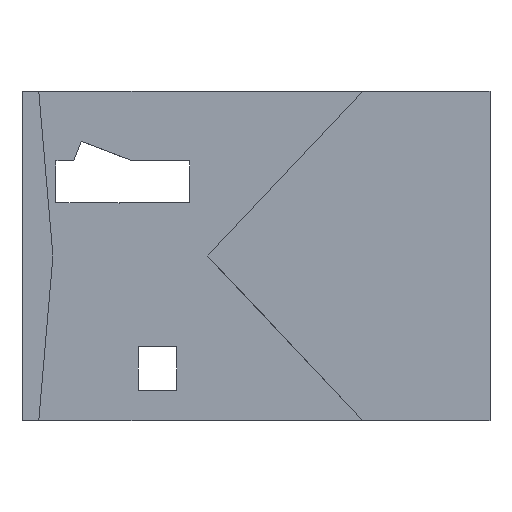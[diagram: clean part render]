
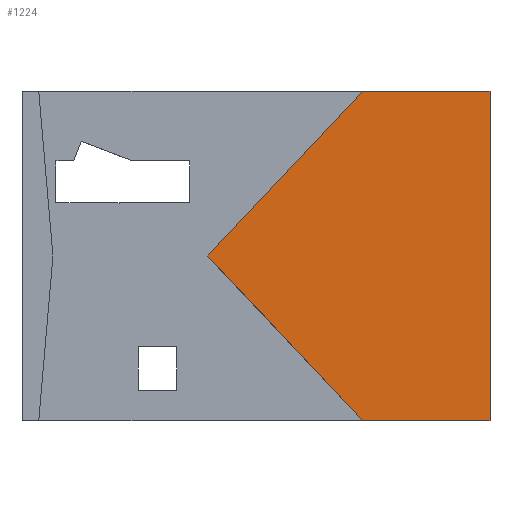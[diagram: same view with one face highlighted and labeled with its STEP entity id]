
A CAD part, front view. The second image highlights one B-rep face of the part: STEP entity #1224.
In plain terms, the highlighted planar face has unit normal (0, -1, 0).
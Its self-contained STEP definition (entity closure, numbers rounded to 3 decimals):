
#32 = PLANE('',#33);
#33 = AXIS2_PLACEMENT_3D('',#34,#35,#36);
#34 = CARTESIAN_POINT('',(0.,0.,22.388));
#35 = DIRECTION('',(0.,0.,1.));
#36 = DIRECTION('',(1.,0.,-0.));
#168 = EDGE_CURVE('',#169,#171,#173,.T.);
#169 = VERTEX_POINT('',#170);
#170 = CARTESIAN_POINT('',(31.767,17.337,
    22.388));
#171 = VERTEX_POINT('',#172);
#172 = CARTESIAN_POINT('',(23.123,17.337,
    22.388));
#173 = SURFACE_CURVE('',#174,(#178,#185),.PCURVE_S1.);
#174 = LINE('',#175,#176);
#175 = CARTESIAN_POINT('',(31.767,17.337,
    22.388));
#176 = VECTOR('',#177,1.);
#177 = DIRECTION('',(-1.,0.,0.));
#178 = PCURVE('',#32,#179);
#179 = DEFINITIONAL_REPRESENTATION('',(#180),#184);
#180 = LINE('',#181,#182);
#181 = CARTESIAN_POINT('',(31.767,17.337));
#182 = VECTOR('',#183,1.);
#183 = DIRECTION('',(-1.,0.));
#184 = ( GEOMETRIC_REPRESENTATION_CONTEXT(2) 
PARAMETRIC_REPRESENTATION_CONTEXT() REPRESENTATION_CONTEXT('2D SPACE',''
  ) );
#185 = PCURVE('',#186,#191);
#186 = PLANE('',#187);
#187 = AXIS2_PLACEMENT_3D('',#188,#189,#190);
#188 = CARTESIAN_POINT('',(24.637,17.337,
    11.194));
#189 = DIRECTION('',(-0.,-1.,-0.));
#190 = DIRECTION('',(0.,0.,-1.));
#191 = DEFINITIONAL_REPRESENTATION('',(#192),#196);
#192 = LINE('',#193,#194);
#193 = CARTESIAN_POINT('',(-11.194,7.13));
#194 = VECTOR('',#195,1.);
#195 = DIRECTION('',(0.,-1.));
#196 = ( GEOMETRIC_REPRESENTATION_CONTEXT(2) 
PARAMETRIC_REPRESENTATION_CONTEXT() REPRESENTATION_CONTEXT('2D SPACE',''
  ) );
#214 = PLANE('',#215);
#215 = AXIS2_PLACEMENT_3D('',#216,#217,#218);
#216 = CARTESIAN_POINT('',(31.767,0.,0.));
#217 = DIRECTION('',(1.,0.,-0.));
#218 = DIRECTION('',(0.,0.,1.));
#408 = PLANE('',#409);
#409 = AXIS2_PLACEMENT_3D('',#410,#411,#412);
#410 = CARTESIAN_POINT('',(23.123,0.,22.388));
#411 = DIRECTION('',(-0.729,-0.,0.685));
#412 = DIRECTION('',(-0.685,0.,-0.729));
#462 = PLANE('',#463);
#463 = AXIS2_PLACEMENT_3D('',#464,#465,#466);
#464 = CARTESIAN_POINT('',(0.,0.,0.));
#465 = DIRECTION('',(0.,0.,1.));
#466 = DIRECTION('',(1.,0.,-0.));
#1224 = ADVANCED_FACE('f006',(#1225),#186,.T.);
#1225 = FACE_BOUND('',#1226,.T.);
#1226 = EDGE_LOOP('',(#1227,#1252,#1273,#1274,#1297));
#1227 = ORIENTED_EDGE('',*,*,#1228,.T.);
#1228 = EDGE_CURVE('',#1229,#1231,#1233,.T.);
#1229 = VERTEX_POINT('',#1230);
#1230 = CARTESIAN_POINT('',(23.123,17.337,0.));
#1231 = VERTEX_POINT('',#1232);
#1232 = CARTESIAN_POINT('',(31.767,17.337,0.));
#1233 = SURFACE_CURVE('',#1234,(#1238,#1245),.PCURVE_S1.);
#1234 = LINE('',#1235,#1236);
#1235 = CARTESIAN_POINT('',(23.123,17.337,0.));
#1236 = VECTOR('',#1237,1.);
#1237 = DIRECTION('',(1.,0.,0.));
#1238 = PCURVE('',#186,#1239);
#1239 = DEFINITIONAL_REPRESENTATION('',(#1240),#1244);
#1240 = LINE('',#1241,#1242);
#1241 = CARTESIAN_POINT('',(11.194,-1.515));
#1242 = VECTOR('',#1243,1.);
#1243 = DIRECTION('',(0.,1.));
#1244 = ( GEOMETRIC_REPRESENTATION_CONTEXT(2) 
PARAMETRIC_REPRESENTATION_CONTEXT() REPRESENTATION_CONTEXT('2D SPACE',''
  ) );
#1245 = PCURVE('',#462,#1246);
#1246 = DEFINITIONAL_REPRESENTATION('',(#1247),#1251);
#1247 = LINE('',#1248,#1249);
#1248 = CARTESIAN_POINT('',(23.123,17.337));
#1249 = VECTOR('',#1250,1.);
#1250 = DIRECTION('',(1.,0.));
#1251 = ( GEOMETRIC_REPRESENTATION_CONTEXT(2) 
PARAMETRIC_REPRESENTATION_CONTEXT() REPRESENTATION_CONTEXT('2D SPACE',''
  ) );
#1252 = ORIENTED_EDGE('',*,*,#1253,.T.);
#1253 = EDGE_CURVE('',#1231,#169,#1254,.T.);
#1254 = SURFACE_CURVE('',#1255,(#1259,#1266),.PCURVE_S1.);
#1255 = LINE('',#1256,#1257);
#1256 = CARTESIAN_POINT('',(31.767,17.337,0.));
#1257 = VECTOR('',#1258,1.);
#1258 = DIRECTION('',(0.,0.,1.));
#1259 = PCURVE('',#186,#1260);
#1260 = DEFINITIONAL_REPRESENTATION('',(#1261),#1265);
#1261 = LINE('',#1262,#1263);
#1262 = CARTESIAN_POINT('',(11.194,7.13));
#1263 = VECTOR('',#1264,1.);
#1264 = DIRECTION('',(-1.,0.));
#1265 = ( GEOMETRIC_REPRESENTATION_CONTEXT(2) 
PARAMETRIC_REPRESENTATION_CONTEXT() REPRESENTATION_CONTEXT('2D SPACE',''
  ) );
#1266 = PCURVE('',#214,#1267);
#1267 = DEFINITIONAL_REPRESENTATION('',(#1268),#1272);
#1268 = LINE('',#1269,#1270);
#1269 = CARTESIAN_POINT('',(0.,-17.337));
#1270 = VECTOR('',#1271,1.);
#1271 = DIRECTION('',(1.,0.));
#1272 = ( GEOMETRIC_REPRESENTATION_CONTEXT(2) 
PARAMETRIC_REPRESENTATION_CONTEXT() REPRESENTATION_CONTEXT('2D SPACE',''
  ) );
#1273 = ORIENTED_EDGE('',*,*,#168,.T.);
#1274 = ORIENTED_EDGE('',*,*,#1275,.T.);
#1275 = EDGE_CURVE('',#171,#1276,#1278,.T.);
#1276 = VERTEX_POINT('',#1277);
#1277 = CARTESIAN_POINT('',(12.602,17.337,
    11.194));
#1278 = SURFACE_CURVE('',#1279,(#1283,#1290),.PCURVE_S1.);
#1279 = LINE('',#1280,#1281);
#1280 = CARTESIAN_POINT('',(23.123,17.337,
    22.388));
#1281 = VECTOR('',#1282,1.);
#1282 = DIRECTION('',(-0.685,0.,-0.729));
#1283 = PCURVE('',#186,#1284);
#1284 = DEFINITIONAL_REPRESENTATION('',(#1285),#1289);
#1285 = LINE('',#1286,#1287);
#1286 = CARTESIAN_POINT('',(-11.194,-1.515));
#1287 = VECTOR('',#1288,1.);
#1288 = DIRECTION('',(0.729,-0.685));
#1289 = ( GEOMETRIC_REPRESENTATION_CONTEXT(2) 
PARAMETRIC_REPRESENTATION_CONTEXT() REPRESENTATION_CONTEXT('2D SPACE',''
  ) );
#1290 = PCURVE('',#408,#1291);
#1291 = DEFINITIONAL_REPRESENTATION('',(#1292),#1296);
#1292 = LINE('',#1293,#1294);
#1293 = CARTESIAN_POINT('',(0.,-17.337));
#1294 = VECTOR('',#1295,1.);
#1295 = DIRECTION('',(1.,0.));
#1296 = ( GEOMETRIC_REPRESENTATION_CONTEXT(2) 
PARAMETRIC_REPRESENTATION_CONTEXT() REPRESENTATION_CONTEXT('2D SPACE',''
  ) );
#1297 = ORIENTED_EDGE('',*,*,#1298,.T.);
#1298 = EDGE_CURVE('',#1276,#1229,#1299,.T.);
#1299 = SURFACE_CURVE('',#1300,(#1304,#1311),.PCURVE_S1.);
#1300 = LINE('',#1301,#1302);
#1301 = CARTESIAN_POINT('',(12.602,17.337,
    11.194));
#1302 = VECTOR('',#1303,1.);
#1303 = DIRECTION('',(0.685,0.,-0.729));
#1304 = PCURVE('',#186,#1305);
#1305 = DEFINITIONAL_REPRESENTATION('',(#1306),#1310);
#1306 = LINE('',#1307,#1308);
#1307 = CARTESIAN_POINT('',(0.,-12.035));
#1308 = VECTOR('',#1309,1.);
#1309 = DIRECTION('',(0.729,0.685));
#1310 = ( GEOMETRIC_REPRESENTATION_CONTEXT(2) 
PARAMETRIC_REPRESENTATION_CONTEXT() REPRESENTATION_CONTEXT('2D SPACE',''
  ) );
#1311 = PCURVE('',#1312,#1317);
#1312 = PLANE('',#1313);
#1313 = AXIS2_PLACEMENT_3D('',#1314,#1315,#1316);
#1314 = CARTESIAN_POINT('',(12.602,0.,11.194));
#1315 = DIRECTION('',(-0.729,0.,-0.685));
#1316 = DIRECTION('',(0.685,0.,-0.729));
#1317 = DEFINITIONAL_REPRESENTATION('',(#1318),#1322);
#1318 = LINE('',#1319,#1320);
#1319 = CARTESIAN_POINT('',(0.,-17.337));
#1320 = VECTOR('',#1321,1.);
#1321 = DIRECTION('',(1.,0.));
#1322 = ( GEOMETRIC_REPRESENTATION_CONTEXT(2) 
PARAMETRIC_REPRESENTATION_CONTEXT() REPRESENTATION_CONTEXT('2D SPACE',''
  ) );
